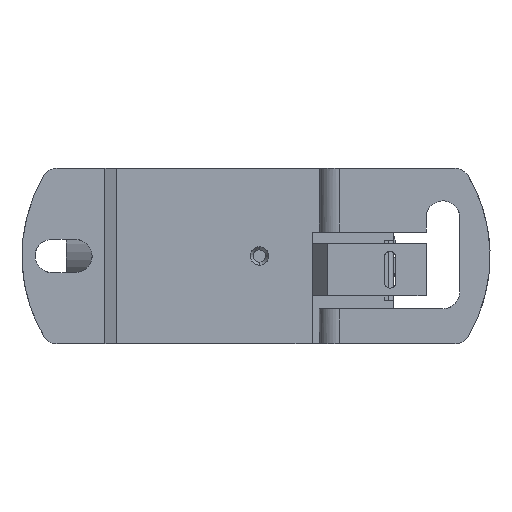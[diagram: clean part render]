
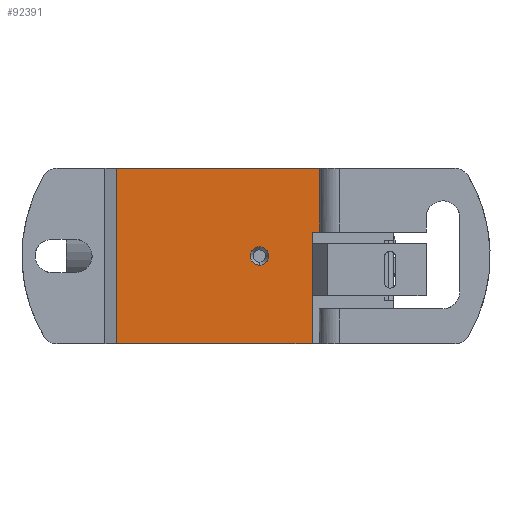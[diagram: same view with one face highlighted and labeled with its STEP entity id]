
A CAD part, front view. The second image highlights one B-rep face of the part: STEP entity #92391.
In plain terms, the highlighted planar face has unit normal (0, -1, 0).
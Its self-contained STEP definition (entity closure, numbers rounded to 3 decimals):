
#16468 = CARTESIAN_POINT ( 'NONE',  ( -110.129, -22.438, -172.75 ) ) ;
#16528 = CARTESIAN_POINT ( 'NONE',  ( -110.129, -22.438, -175.75 ) ) ;
#16529 = CARTESIAN_POINT ( 'NONE',  ( -110.325, -22.438, -175.75 ) ) ;
#16530 = CARTESIAN_POINT ( 'NONE',  ( -110.521, -22.438, -175.711 ) ) ;
#16531 = CARTESIAN_POINT ( 'NONE',  ( -110.884, -22.438, -175.561 ) ) ;
#16532 = CARTESIAN_POINT ( 'NONE',  ( -111.05, -22.438, -175.45 ) ) ;
#16533 = CARTESIAN_POINT ( 'NONE',  ( -111.328, -22.438, -175.172 ) ) ;
#16534 = CARTESIAN_POINT ( 'NONE',  ( -111.439, -22.438, -175.005 ) ) ;
#16535 = CARTESIAN_POINT ( 'NONE',  ( -111.59, -22.438, -174.643 ) ) ;
#16537 = CARTESIAN_POINT ( 'NONE',  ( -111.629, -22.438, -174.446 ) ) ;
#16538 = CARTESIAN_POINT ( 'NONE',  ( -111.629, -22.438, -174.054 ) ) ;
#16539 = CARTESIAN_POINT ( 'NONE',  ( -111.59, -22.438, -173.857 ) ) ;
#16540 = CARTESIAN_POINT ( 'NONE',  ( -111.439, -22.438, -173.495 ) ) ;
#16541 = CARTESIAN_POINT ( 'NONE',  ( -111.328, -22.438, -173.328 ) ) ;
#16542 = CARTESIAN_POINT ( 'NONE',  ( -111.05, -22.438, -173.05 ) ) ;
#16543 = CARTESIAN_POINT ( 'NONE',  ( -110.884, -22.438, -172.939 ) ) ;
#16544 = CARTESIAN_POINT ( 'NONE',  ( -110.521, -22.438, -172.789 ) ) ;
#16545 = CARTESIAN_POINT ( 'NONE',  ( -110.325, -22.438, -172.75 ) ) ;
#16547 = CARTESIAN_POINT ( 'NONE',  ( -110.129, -22.438, -172.75 ) ) ;
#16548 = CARTESIAN_POINT ( 'NONE',  ( -110.129, -22.438, -175.75 ) ) ;
#16549 = B_SPLINE_CURVE_WITH_KNOTS ( 'NONE', 3,
 ( #16547, #16545, #16544, #16543, #16542, #16541, #16540, #16539, #16538, #16537, #16535, #16534, #16533, #16532, #16531, #16530, #16529, #16528 ),
 .UNSPECIFIED., .F., .F.,
 ( 4, 2, 2, 2, 2, 2, 2, 2, 4 ),
 ( 0., 0.083, 0.167, 0.25, 0.333, 0.417, 0.5, 0.583, 0.667 ),
 .UNSPECIFIED. ) ;
#29073 = CARTESIAN_POINT ( 'NONE',  ( -108.629, -22.438, -174.25 ) ) ;
#29074 = CARTESIAN_POINT ( 'NONE',  ( -108.629, -22.438, -174.446 ) ) ;
#29075 = CARTESIAN_POINT ( 'NONE',  ( -108.668, -22.438, -174.643 ) ) ;
#29076 = CARTESIAN_POINT ( 'NONE',  ( -108.818, -22.438, -175.005 ) ) ;
#29077 = CARTESIAN_POINT ( 'NONE',  ( -108.929, -22.438, -175.172 ) ) ;
#29078 = CARTESIAN_POINT ( 'NONE',  ( -109.207, -22.438, -175.45 ) ) ;
#29079 = CARTESIAN_POINT ( 'NONE',  ( -109.373, -22.438, -175.561 ) ) ;
#29080 = CARTESIAN_POINT ( 'NONE',  ( -109.736, -22.438, -175.711 ) ) ;
#29081 = CARTESIAN_POINT ( 'NONE',  ( -109.932, -22.438, -175.75 ) ) ;
#29082 = CARTESIAN_POINT ( 'NONE',  ( -110.129, -22.438, -175.75 ) ) ;
#29084 = CARTESIAN_POINT ( 'NONE',  ( -108.629, -22.438, -174.25 ) ) ;
#29085 = B_SPLINE_CURVE_WITH_KNOTS ( 'NONE', 3,
 ( #29082, #29081, #29080, #29079, #29078, #29077, #29076, #29075, #29074, #29073 ),
 .UNSPECIFIED., .F., .F.,
 ( 4, 2, 2, 2, 4 ),
 ( 0.667, 0.75, 0.833, 0.917, 1. ),
 .UNSPECIFIED. ) ;
#29153 = LINE ( 'NONE', #29190, #29189 ) ;
#29154 = CARTESIAN_POINT ( 'NONE',  ( -135.129, -22.438, -188.55 ) ) ;
#29172 = CARTESIAN_POINT ( 'NONE',  ( -135.129, -22.438, -159.95 ) ) ;
#29188 = DIRECTION ( 'NONE',  ( 0., 0., -1. ) ) ;
#29189 = VECTOR ( 'NONE', #29188, 1000. ) ;
#29190 = CARTESIAN_POINT ( 'NONE',  ( -135.129, -22.438, -174.25 ) ) ;
#29425 = CARTESIAN_POINT ( 'NONE',  ( -108.629, -22.438, -174.25 ) ) ;
#29426 = CARTESIAN_POINT ( 'NONE',  ( -108.629, -22.438, -174.051 ) ) ;
#29427 = CARTESIAN_POINT ( 'NONE',  ( -108.667, -22.438, -173.859 ) ) ;
#29428 = CARTESIAN_POINT ( 'NONE',  ( -108.819, -22.438, -173.493 ) ) ;
#29429 = CARTESIAN_POINT ( 'NONE',  ( -108.928, -22.438, -173.33 ) ) ;
#29430 = CARTESIAN_POINT ( 'NONE',  ( -109.208, -22.438, -173.049 ) ) ;
#29431 = CARTESIAN_POINT ( 'NONE',  ( -109.371, -22.438, -172.94 ) ) ;
#29432 = CARTESIAN_POINT ( 'NONE',  ( -109.738, -22.438, -172.788 ) ) ;
#29433 = CARTESIAN_POINT ( 'NONE',  ( -109.93, -22.438, -172.75 ) ) ;
#29434 = CARTESIAN_POINT ( 'NONE',  ( -110.129, -22.438, -172.75 ) ) ;
#29440 = B_SPLINE_CURVE_WITH_KNOTS ( 'NONE', 3,
 ( #29434, #29433, #29432, #29431, #29430, #29429, #29428, #29427, #29426, #29425 ),
 .UNSPECIFIED., .F., .F.,
 ( 4, 2, 2, 2, 4 ),
 ( 0., 0.25, 0.5, 0.75, 1. ),
 .UNSPECIFIED. ) ;
#31543 = LINE ( 'NONE', #31547, #31546 ) ;
#31544 = CARTESIAN_POINT ( 'NONE',  ( -101.529, -22.438, -170.35 ) ) ;
#31545 = DIRECTION ( 'NONE',  ( 1., 0., 0. ) ) ;
#31546 = VECTOR ( 'NONE', #31545, 1000. ) ;
#31547 = CARTESIAN_POINT ( 'NONE',  ( -117.729, -22.438, -170.35 ) ) ;
#31577 = CARTESIAN_POINT ( 'NONE',  ( -100.329, -22.438, -170.35 ) ) ;
#74165 = VERTEX_POINT ( 'NONE', #16468 ) ;
#74168 = EDGE_CURVE ( 'NONE', #74165, #74172, #16549, .T. ) ;
#74172 = VERTEX_POINT ( 'NONE', #16548 ) ;
#77587 = EDGE_CURVE ( 'NONE', #74172, #77588, #29085, .T. ) ;
#77588 = VERTEX_POINT ( 'NONE', #29084 ) ;
#77620 = VERTEX_POINT ( 'NONE', #29154 ) ;
#77626 = EDGE_CURVE ( 'NONE', #77628, #77620, #29153, .T. ) ;
#77628 = VERTEX_POINT ( 'NONE', #29172 ) ;
#77730 = EDGE_CURVE ( 'NONE', #74165, #77588, #29440, .T. ) ;
#78040 = EDGE_CURVE ( 'NONE', #78044, #78047, #31543, .T. ) ;
#78044 = VERTEX_POINT ( 'NONE', #31544 ) ;
#78047 = VERTEX_POINT ( 'NONE', #31577 ) ;
#92005 = EDGE_CURVE ( 'NONE', #92008, #78044, #117732, .T. ) ;
#92008 = VERTEX_POINT ( 'NONE', #117724 ) ;
#92350 = EDGE_CURVE ( 'NONE', #92008, #77620, #118087, .T. ) ;
#92391 = ADVANCED_FACE ( 'NONE', ( #118110, #118109 ), #118145, .T. ) ;
#92396 = EDGE_LOOP ( 'NONE', ( #92398, #92563, #92566 ) ) ;
#92398 = ORIENTED_EDGE ( 'NONE', *, *, #74168, .F. ) ;
#92514 = ORIENTED_EDGE ( 'NONE', *, *, #92005, .T. ) ;
#92517 = ORIENTED_EDGE ( 'NONE', *, *, #78040, .T. ) ;
#92563 = ORIENTED_EDGE ( 'NONE', *, *, #77730, .T. ) ;
#92566 = ORIENTED_EDGE ( 'NONE', *, *, #77587, .F. ) ;
#92571 = EDGE_LOOP ( 'NONE', ( #92574, #92583, #92587, #92589, #92514, #92517 ) ) ;
#92574 = ORIENTED_EDGE ( 'NONE', *, *, #92577, .F. ) ;
#92577 = EDGE_CURVE ( 'NONE', #92580, #78047, #118339, .T. ) ;
#92580 = VERTEX_POINT ( 'NONE', #118337 ) ;
#92583 = ORIENTED_EDGE ( 'NONE', *, *, #92585, .F. ) ;
#92585 = EDGE_CURVE ( 'NONE', #77628, #92580, #118338, .T. ) ;
#92587 = ORIENTED_EDGE ( 'NONE', *, *, #77626, .T. ) ;
#92589 = ORIENTED_EDGE ( 'NONE', *, *, #92350, .F. ) ;
#117724 = CARTESIAN_POINT ( 'NONE',  ( -101.529, -22.438, -188.55 ) ) ;
#117725 = DIRECTION ( 'NONE',  ( 0., 0., 1. ) ) ;
#117726 = VECTOR ( 'NONE', #117725, 1000. ) ;
#117727 = CARTESIAN_POINT ( 'NONE',  ( -101.529, -22.438, -174.25 ) ) ;
#117732 = LINE ( 'NONE', #117727, #117726 ) ;
#118084 = DIRECTION ( 'NONE',  ( -1., 0., 0. ) ) ;
#118085 = VECTOR ( 'NONE', #118084, 1000. ) ;
#118086 = CARTESIAN_POINT ( 'NONE',  ( -110.679, -22.438, -188.55 ) ) ;
#118087 = LINE ( 'NONE', #118086, #118085 ) ;
#118109 = FACE_OUTER_BOUND ( 'NONE', #92571, .T. ) ;
#118110 = FACE_BOUND ( 'NONE', #92396, .T. ) ;
#118140 = DIRECTION ( 'NONE',  ( 1., 0., 0. ) ) ;
#118141 = DIRECTION ( 'NONE',  ( 0., -1., 0. ) ) ;
#118142 = CARTESIAN_POINT ( 'NONE',  ( -135.129, -22.438, -188.55 ) ) ;
#118143 = AXIS2_PLACEMENT_3D ( 'NONE', #118142, #118141, #118140 ) ;
#118145 = PLANE ( 'NONE',  #118143 ) ;
#118332 = DIRECTION ( 'NONE',  ( 1., 0., 0. ) ) ;
#118333 = VECTOR ( 'NONE', #118332, 1000. ) ;
#118334 = CARTESIAN_POINT ( 'NONE',  ( -110.679, -22.438, -159.95 ) ) ;
#118335 = CARTESIAN_POINT ( 'NONE',  ( -100.329, -22.438, -170.35 ) ) ;
#118336 = CARTESIAN_POINT ( 'NONE',  ( -100.329, -22.438, -159.95 ) ) ;
#118337 = CARTESIAN_POINT ( 'NONE',  ( -100.329, -22.438, -159.95 ) ) ;
#118338 = LINE ( 'NONE', #118334, #118333 ) ;
#118339 = B_SPLINE_CURVE_WITH_KNOTS ( 'NONE', 1,
 ( #118336, #118335 ),
 .UNSPECIFIED., .F., .F.,
 ( 2, 2 ),
 ( 0., 1. ),
 .UNSPECIFIED. ) ;
